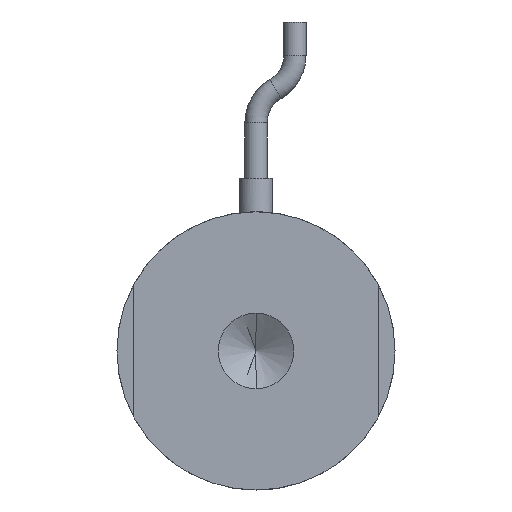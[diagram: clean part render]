
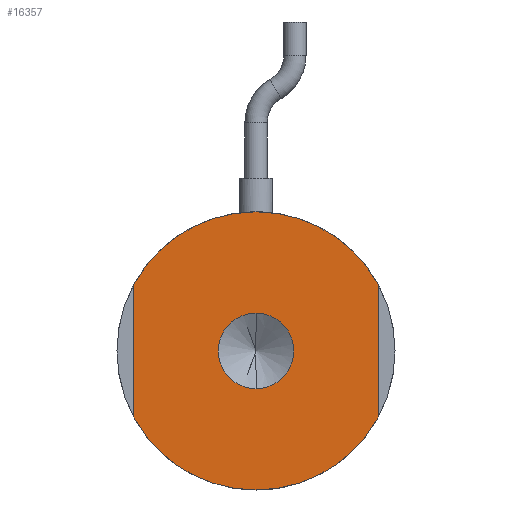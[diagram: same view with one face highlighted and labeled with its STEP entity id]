
A CAD part, front view. The second image highlights one B-rep face of the part: STEP entity #16357.
In plain terms, the highlighted planar face has unit normal (0, -1, 0).
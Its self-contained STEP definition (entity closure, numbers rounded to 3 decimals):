
#288 = EDGE_CURVE ( 'NONE', #12419, #16038, #4299, .T. ) ;
#1643 = ORIENTED_EDGE ( 'NONE', *, *, #288, .F. ) ;
#4289 = VECTOR ( 'NONE', #21424, 1000. ) ;
#4299 = CIRCLE ( 'NONE', #16343, 12.5 ) ;
#4791 = DIRECTION ( 'NONE',  ( 0., -1., 0. ) ) ;
#6403 = ORIENTED_EDGE ( 'NONE', *, *, #36683, .F. ) ;
#6515 = CARTESIAN_POINT ( 'NONE',  ( 0., 0., 12.5 ) ) ;
#6705 = DIRECTION ( 'NONE',  ( 0., 1., 0. ) ) ;
#6845 = CARTESIAN_POINT ( 'NONE',  ( -11., 0., -5.937 ) ) ;
#6952 = CARTESIAN_POINT ( 'NONE',  ( 0., 0., 0. ) ) ;
#10121 = DIRECTION ( 'NONE',  ( 0., 0., 1. ) ) ;
#10446 = DIRECTION ( 'NONE',  ( 0., 0., 1. ) ) ;
#10717 = AXIS2_PLACEMENT_3D ( 'NONE', #18311, #42596, #21836 ) ;
#10923 = CARTESIAN_POINT ( 'NONE',  ( -11., 0., 0. ) ) ;
#11063 = DIRECTION ( 'NONE',  ( 0., 1., 0. ) ) ;
#11455 = LINE ( 'NONE', #35514, #19611 ) ;
#11690 = ORIENTED_EDGE ( 'NONE', *, *, #23431, .F. ) ;
#11783 = AXIS2_PLACEMENT_3D ( 'NONE', #31843, #11063, #35340 ) ;
#11878 = EDGE_CURVE ( 'NONE', #23858, #44271, #18139, .T. ) ;
#12419 = VERTEX_POINT ( 'NONE', #6515 ) ;
#12452 = CIRCLE ( 'NONE', #11783, 12.5 ) ;
#13576 = AXIS2_PLACEMENT_3D ( 'NONE', #25628, #4791, #29101 ) ;
#14369 = CARTESIAN_POINT ( 'NONE',  ( 0., 0., 3.4 ) ) ;
#16038 = VERTEX_POINT ( 'NONE', #20092 ) ;
#16343 = AXIS2_PLACEMENT_3D ( 'NONE', #17356, #17207, #10121 ) ;
#16357 = ADVANCED_FACE ( 'NONE', ( #32119, #21839 ), #33226, .F. ) ;
#16644 = CARTESIAN_POINT ( 'NONE',  ( 0., 0., 0. ) ) ;
#17207 = DIRECTION ( 'NONE',  ( 0., 1., 0. ) ) ;
#17356 = CARTESIAN_POINT ( 'NONE',  ( 0., 0., 0. ) ) ;
#18139 = CIRCLE ( 'NONE', #10717, 12.5 ) ;
#18205 = DIRECTION ( 'NONE',  ( 0., 0., -1. ) ) ;
#18311 = CARTESIAN_POINT ( 'NONE',  ( 0., 0., 0. ) ) ;
#19459 = CARTESIAN_POINT ( 'NONE',  ( 0., 0., -3.4 ) ) ;
#19611 = VECTOR ( 'NONE', #18205, 1000. ) ;
#19992 = VERTEX_POINT ( 'NONE', #14369 ) ;
#20092 = CARTESIAN_POINT ( 'NONE',  ( 11., 0., 5.937 ) ) ;
#20116 = AXIS2_PLACEMENT_3D ( 'NONE', #6952, #31229, #10446 ) ;
#20150 = DIRECTION ( 'NONE',  ( 0., 0., -1. ) ) ;
#20457 = ORIENTED_EDGE ( 'NONE', *, *, #11878, .F. ) ;
#20630 = EDGE_CURVE ( 'NONE', #16038, #23858, #11455, .T. ) ;
#20900 = ORIENTED_EDGE ( 'NONE', *, *, #43450, .F. ) ;
#21395 = ORIENTED_EDGE ( 'NONE', *, *, #42039, .F. ) ;
#21424 = DIRECTION ( 'NONE',  ( 0., 0., 1. ) ) ;
#21667 = VERTEX_POINT ( 'NONE', #19459 ) ;
#21836 = DIRECTION ( 'NONE',  ( 0., 0., 1. ) ) ;
#21839 = FACE_OUTER_BOUND ( 'NONE', #25267, .T. ) ;
#22907 = ORIENTED_EDGE ( 'NONE', *, *, #32534, .F. ) ;
#23431 = EDGE_CURVE ( 'NONE', #44271, #27469, #12452, .T. ) ;
#23858 = VERTEX_POINT ( 'NONE', #39235 ) ;
#25267 = EDGE_LOOP ( 'NONE', ( #21395, #11690, #20457, #37612, #1643, #22907 ) ) ;
#25628 = CARTESIAN_POINT ( 'NONE',  ( 0., 0., 0. ) ) ;
#25674 = AXIS2_PLACEMENT_3D ( 'NONE', #16644, #40919, #20150 ) ;
#26332 = CIRCLE ( 'NONE', #43023, 12.5 ) ;
#26428 = EDGE_LOOP ( 'NONE', ( #20900, #6403 ) ) ;
#27469 = VERTEX_POINT ( 'NONE', #6845 ) ;
#27533 = CARTESIAN_POINT ( 'NONE',  ( 0., 0., 0. ) ) ;
#29101 = DIRECTION ( 'NONE',  ( 0., 0., -1. ) ) ;
#30987 = DIRECTION ( 'NONE',  ( 0., 0., 1. ) ) ;
#31229 = DIRECTION ( 'NONE',  ( 0., 1., 0. ) ) ;
#31833 = VERTEX_POINT ( 'NONE', #32727 ) ;
#31843 = CARTESIAN_POINT ( 'NONE',  ( 0., 0., 0. ) ) ;
#32119 = FACE_BOUND ( 'NONE', #26428, .T. ) ;
#32534 = EDGE_CURVE ( 'NONE', #31833, #12419, #26332, .T. ) ;
#32727 = CARTESIAN_POINT ( 'NONE',  ( -11., 0., 5.937 ) ) ;
#33100 = LINE ( 'NONE', #10923, #4289 ) ;
#33226 = PLANE ( 'NONE',  #20116 ) ;
#35340 = DIRECTION ( 'NONE',  ( 0., 0., 1. ) ) ;
#35514 = CARTESIAN_POINT ( 'NONE',  ( 11., 0., 0. ) ) ;
#36683 = EDGE_CURVE ( 'NONE', #19992, #21667, #44147, .T. ) ;
#37612 = ORIENTED_EDGE ( 'NONE', *, *, #20630, .F. ) ;
#39235 = CARTESIAN_POINT ( 'NONE',  ( 11., 0., -5.937 ) ) ;
#40919 = DIRECTION ( 'NONE',  ( 0., -1., 0. ) ) ;
#42039 = EDGE_CURVE ( 'NONE', #27469, #31833, #33100, .T. ) ;
#42596 = DIRECTION ( 'NONE',  ( 0., 1., 0. ) ) ;
#43023 = AXIS2_PLACEMENT_3D ( 'NONE', #27533, #6705, #30987 ) ;
#43450 = EDGE_CURVE ( 'NONE', #21667, #19992, #44022, .T. ) ;
#44022 = CIRCLE ( 'NONE', #13576, 3.4 ) ;
#44147 = CIRCLE ( 'NONE', #25674, 3.4 ) ;
#44271 = VERTEX_POINT ( 'NONE', #44349 ) ;
#44349 = CARTESIAN_POINT ( 'NONE',  ( 0., 0., -12.5 ) ) ;
